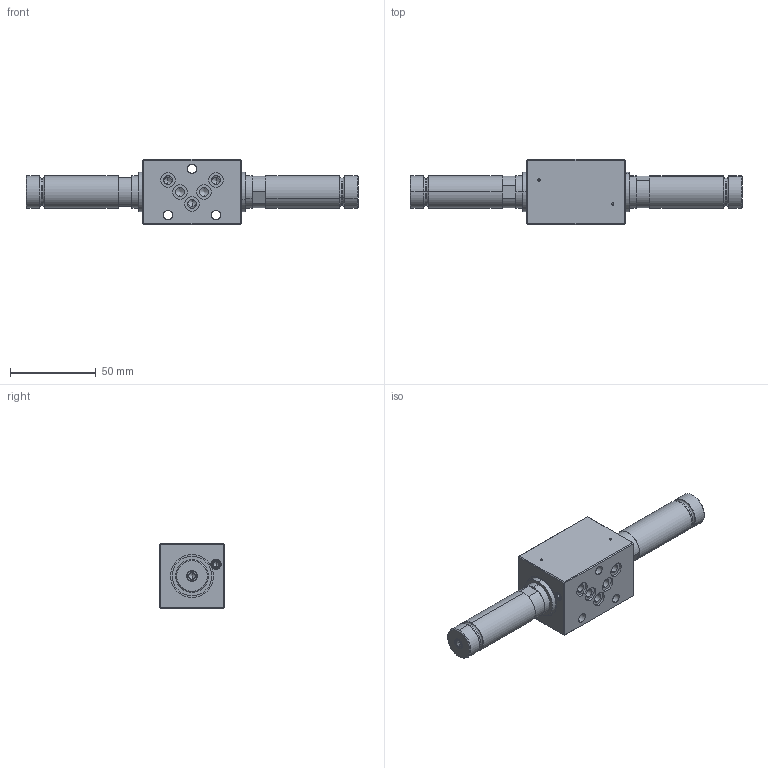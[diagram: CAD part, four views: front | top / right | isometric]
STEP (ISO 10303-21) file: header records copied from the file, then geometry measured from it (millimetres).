
FILE_DESCRIPTION (( 'STEP AP203' ), '1' );
FILE_NAME ('WDMFA04-4_3.step', '2013-07-25T09:06:53', ( 'Wandfluh AG' ), ( 'Wandfluh AG' ), 'SwSTEP 2.0', 'SolidWorks 2012', '' );
FILE_SCHEMA (( 'CONFIG_CONTROL_DESIGN' ));
Length unit declared in the file: millimetre
Products named in the file (1): WDMFA04-4_3
Bounding box: 193.6 x 38 x 38 mm (x, y, z)
Volume: 109974.9 mm3; surface area: 33157 mm2
Topology: 9 solids, 9 shells, 1020 faces, 2720 edges, 1748 vertices
Faces by surface type: plane 587, cylinder 278, cone 83, torus 40, bspline 32
Entity records: 33534 total; most frequent: CARTESIAN_POINT 7518, DIRECTION 5579, ORIENTED_EDGE 5392, EDGE_CURVE 2696, AXIS2_PLACEMENT_3D 1981, VERTEX_POINT 1748, VECTOR 1617, LINE 1617
